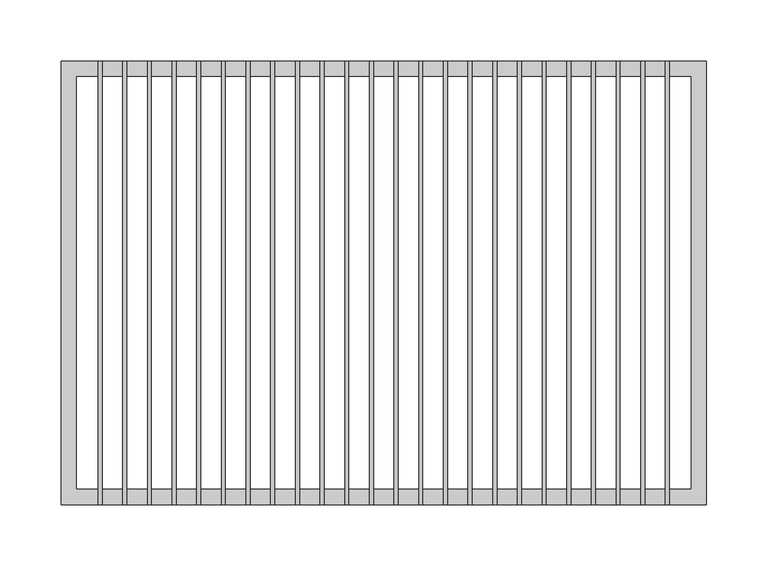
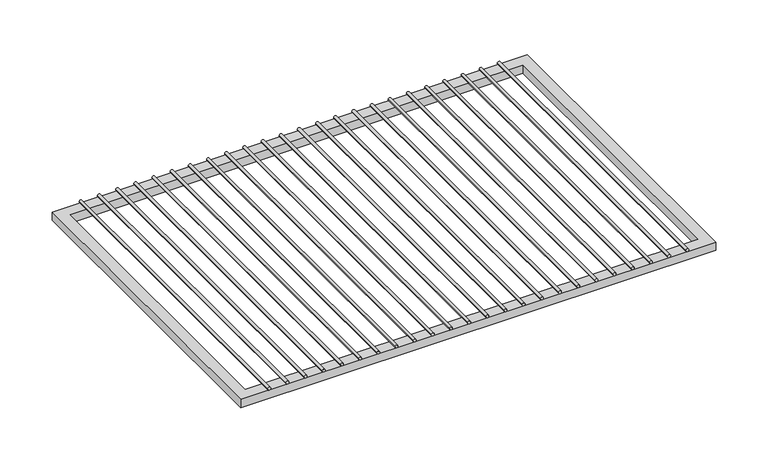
"""IFC4 building model written with IfcOpenShell, lengths in millimetres: furniture geometry, HermanMiller_CoStruc_CO252_CWireShelf : 14D x 20W."""

from ifc_helpers import new_model, si_unit, point, frame, frame_2d, origin, place, context, project, spatial, polyline, circle_curve, trimmed, segment, composite_curve, outline, extrude, source, transform, mapped, element, save


def furniture_db00a5af(model_context):
    return source(origin(), model_context, "Body", "SweptSolid", [
        extrude(outline(composite_curve([segment(trimmed(circle_curve(frame_2d((1626.39502, -211.6206522)), 1.5875), [point((1626.39502, -213.2081522))], [point((1626.39502, -210.0331522))], False, "CARTESIAN"), True, "CONTINUOUS"), segment(trimmed(circle_curve(frame_2d((1626.39502, -211.6206522)), 1.5875), [point((1626.39502, -210.0331522))], [point((1626.39502, -213.2081522))], False, "CARTESIAN"), True, "CONTINUOUS")], self_intersect=False)), frame((0.0, -180.975, 0.0), z_axis=(0.0, 1.0, 0.0), x_axis=(0.0, 0.0, 1.0)), (0.0, 0.0, 1.0), 361.95),
        extrude(outline(composite_curve([segment(trimmed(circle_curve(frame_2d((1626.39502, -191.4663043)), 1.5875), [point((1626.39502, -193.0538043))], [point((1626.39502, -189.8788043))], False, "CARTESIAN"), True, "CONTINUOUS"), segment(trimmed(circle_curve(frame_2d((1626.39502, -191.4663043)), 1.5875), [point((1626.39502, -189.8788043))], [point((1626.39502, -193.0538043))], False, "CARTESIAN"), True, "CONTINUOUS")], self_intersect=False)), frame((0.0, -180.975, 0.0), z_axis=(0.0, 1.0, 0.0), x_axis=(0.0, 0.0, 1.0)), (0.0, 0.0, 1.0), 361.95),
        extrude(outline(composite_curve([segment(trimmed(circle_curve(frame_2d((1626.39502, -171.3119565)), 1.5875), [point((1626.39502, -172.8994565))], [point((1626.39502, -169.7244565))], False, "CARTESIAN"), True, "CONTINUOUS"), segment(trimmed(circle_curve(frame_2d((1626.39502, -171.3119565)), 1.5875), [point((1626.39502, -169.7244565))], [point((1626.39502, -172.8994565))], False, "CARTESIAN"), True, "CONTINUOUS")], self_intersect=False)), frame((0.0, -180.975, 0.0), z_axis=(0.0, 1.0, 0.0), x_axis=(0.0, 0.0, 1.0)), (0.0, 0.0, 1.0), 361.95),
        extrude(outline(composite_curve([segment(trimmed(circle_curve(frame_2d((1626.39502, -151.1576087)), 1.5875), [point((1626.39502, -152.7451087))], [point((1626.39502, -149.5701087))], False, "CARTESIAN"), True, "CONTINUOUS"), segment(trimmed(circle_curve(frame_2d((1626.39502, -151.1576087)), 1.5875), [point((1626.39502, -149.5701087))], [point((1626.39502, -152.7451087))], False, "CARTESIAN"), True, "CONTINUOUS")], self_intersect=False)), frame((0.0, -180.975, 0.0), z_axis=(0.0, 1.0, 0.0), x_axis=(0.0, 0.0, 1.0)), (0.0, 0.0, 1.0), 361.95),
        extrude(outline(composite_curve([segment(trimmed(circle_curve(frame_2d((1626.39502, -131.0032609)), 1.5875), [point((1626.39502, -132.5907609))], [point((1626.39502, -129.4157609))], False, "CARTESIAN"), True, "CONTINUOUS"), segment(trimmed(circle_curve(frame_2d((1626.39502, -131.0032609)), 1.5875), [point((1626.39502, -129.4157609))], [point((1626.39502, -132.5907609))], False, "CARTESIAN"), True, "CONTINUOUS")], self_intersect=False)), frame((0.0, -180.975, 0.0), z_axis=(0.0, 1.0, 0.0), x_axis=(0.0, 0.0, 1.0)), (0.0, 0.0, 1.0), 361.95),
        extrude(outline(composite_curve([segment(trimmed(circle_curve(frame_2d((1626.39502, -110.848913)), 1.5875), [point((1626.39502, -112.436413))], [point((1626.39502, -109.261413))], False, "CARTESIAN"), True, "CONTINUOUS"), segment(trimmed(circle_curve(frame_2d((1626.39502, -110.848913)), 1.5875), [point((1626.39502, -109.261413))], [point((1626.39502, -112.436413))], False, "CARTESIAN"), True, "CONTINUOUS")], self_intersect=False)), frame((0.0, -180.975, 0.0), z_axis=(0.0, 1.0, 0.0), x_axis=(0.0, 0.0, 1.0)), (0.0, 0.0, 1.0), 361.95),
        extrude(outline(composite_curve([segment(trimmed(circle_curve(frame_2d((1626.39502, -90.6945652)), 1.5875), [point((1626.39502, -92.2820652))], [point((1626.39502, -89.1070652))], False, "CARTESIAN"), True, "CONTINUOUS"), segment(trimmed(circle_curve(frame_2d((1626.39502, -90.6945652)), 1.5875), [point((1626.39502, -89.1070652))], [point((1626.39502, -92.2820652))], False, "CARTESIAN"), True, "CONTINUOUS")], self_intersect=False)), frame((0.0, -180.975, 0.0), z_axis=(0.0, 1.0, 0.0), x_axis=(0.0, 0.0, 1.0)), (0.0, 0.0, 1.0), 361.95),
        extrude(outline(composite_curve([segment(trimmed(circle_curve(frame_2d((1626.39502, -70.5402174)), 1.5875), [point((1626.39502, -72.1277174))], [point((1626.39502, -68.9527174))], False, "CARTESIAN"), True, "CONTINUOUS"), segment(trimmed(circle_curve(frame_2d((1626.39502, -70.5402174)), 1.5875), [point((1626.39502, -68.9527174))], [point((1626.39502, -72.1277174))], False, "CARTESIAN"), True, "CONTINUOUS")], self_intersect=False)), frame((0.0, -180.975, 0.0), z_axis=(0.0, 1.0, 0.0), x_axis=(0.0, 0.0, 1.0)), (0.0, 0.0, 1.0), 361.95),
        extrude(outline(composite_curve([segment(trimmed(circle_curve(frame_2d((1626.39502, -50.3858696)), 1.5875), [point((1626.39502, -51.9733696))], [point((1626.39502, -48.7983696))], False, "CARTESIAN"), True, "CONTINUOUS"), segment(trimmed(circle_curve(frame_2d((1626.39502, -50.3858696)), 1.5875), [point((1626.39502, -48.7983696))], [point((1626.39502, -51.9733696))], False, "CARTESIAN"), True, "CONTINUOUS")], self_intersect=False)), frame((0.0, -180.975, 0.0), z_axis=(0.0, 1.0, 0.0), x_axis=(0.0, 0.0, 1.0)), (0.0, 0.0, 1.0), 361.95),
        extrude(outline(composite_curve([segment(trimmed(circle_curve(frame_2d((1626.39502, -30.2315217)), 1.5875), [point((1626.39502, -31.8190217))], [point((1626.39502, -28.6440217))], False, "CARTESIAN"), True, "CONTINUOUS"), segment(trimmed(circle_curve(frame_2d((1626.39502, -30.2315217)), 1.5875), [point((1626.39502, -28.6440217))], [point((1626.39502, -31.8190217))], False, "CARTESIAN"), True, "CONTINUOUS")], self_intersect=False)), frame((0.0, -180.975, 0.0), z_axis=(0.0, 1.0, 0.0), x_axis=(0.0, 0.0, 1.0)), (0.0, 0.0, 1.0), 361.95),
        extrude(outline(composite_curve([segment(trimmed(circle_curve(frame_2d((1626.39502, -10.0771739)), 1.5875), [point((1626.39502, -11.6646739))], [point((1626.39502, -8.4896739))], False, "CARTESIAN"), True, "CONTINUOUS"), segment(trimmed(circle_curve(frame_2d((1626.39502, -10.0771739)), 1.5875), [point((1626.39502, -8.4896739))], [point((1626.39502, -11.6646739))], False, "CARTESIAN"), True, "CONTINUOUS")], self_intersect=False)), frame((0.0, -180.975, 0.0), z_axis=(0.0, 1.0, 0.0), x_axis=(0.0, 0.0, 1.0)), (0.0, 0.0, 1.0), 361.95),
        extrude(outline(composite_curve([segment(trimmed(circle_curve(frame_2d((1626.39502, 10.0771739)), 1.5875), [point((1626.39502, 8.4896739))], [point((1626.39502, 11.6646739))], False, "CARTESIAN"), True, "CONTINUOUS"), segment(trimmed(circle_curve(frame_2d((1626.39502, 10.0771739)), 1.5875), [point((1626.39502, 11.6646739))], [point((1626.39502, 8.4896739))], False, "CARTESIAN"), True, "CONTINUOUS")], self_intersect=False)), frame((0.0, -180.975, 0.0), z_axis=(0.0, 1.0, 0.0), x_axis=(0.0, 0.0, 1.0)), (0.0, 0.0, 1.0), 361.95),
        extrude(outline(composite_curve([segment(trimmed(circle_curve(frame_2d((1626.39502, 30.2315217)), 1.5875), [point((1626.39502, 28.6440217))], [point((1626.39502, 31.8190217))], False, "CARTESIAN"), True, "CONTINUOUS"), segment(trimmed(circle_curve(frame_2d((1626.39502, 30.2315217)), 1.5875), [point((1626.39502, 31.8190217))], [point((1626.39502, 28.6440217))], False, "CARTESIAN"), True, "CONTINUOUS")], self_intersect=False)), frame((0.0, -180.975, 0.0), z_axis=(0.0, 1.0, 0.0), x_axis=(0.0, 0.0, 1.0)), (0.0, 0.0, 1.0), 361.95),
        extrude(outline(composite_curve([segment(trimmed(circle_curve(frame_2d((1626.39502, 50.3858696)), 1.5875), [point((1626.39502, 48.7983696))], [point((1626.39502, 51.9733696))], False, "CARTESIAN"), True, "CONTINUOUS"), segment(trimmed(circle_curve(frame_2d((1626.39502, 50.3858696)), 1.5875), [point((1626.39502, 51.9733696))], [point((1626.39502, 48.7983696))], False, "CARTESIAN"), True, "CONTINUOUS")], self_intersect=False)), frame((0.0, -180.975, 0.0), z_axis=(0.0, 1.0, 0.0), x_axis=(0.0, 0.0, 1.0)), (0.0, 0.0, 1.0), 361.95),
        extrude(outline(composite_curve([segment(trimmed(circle_curve(frame_2d((1626.39502, 70.5402174)), 1.5875), [point((1626.39502, 68.9527174))], [point((1626.39502, 72.1277174))], False, "CARTESIAN"), True, "CONTINUOUS"), segment(trimmed(circle_curve(frame_2d((1626.39502, 70.5402174)), 1.5875), [point((1626.39502, 72.1277174))], [point((1626.39502, 68.9527174))], False, "CARTESIAN"), True, "CONTINUOUS")], self_intersect=False)), frame((0.0, -180.975, 0.0), z_axis=(0.0, 1.0, 0.0), x_axis=(0.0, 0.0, 1.0)), (0.0, 0.0, 1.0), 361.95),
        extrude(outline(composite_curve([segment(trimmed(circle_curve(frame_2d((1626.39502, 90.6945652)), 1.5875), [point((1626.39502, 89.1070652))], [point((1626.39502, 92.2820652))], False, "CARTESIAN"), True, "CONTINUOUS"), segment(trimmed(circle_curve(frame_2d((1626.39502, 90.6945652)), 1.5875), [point((1626.39502, 92.2820652))], [point((1626.39502, 89.1070652))], False, "CARTESIAN"), True, "CONTINUOUS")], self_intersect=False)), frame((0.0, -180.975, 0.0), z_axis=(0.0, 1.0, 0.0), x_axis=(0.0, 0.0, 1.0)), (0.0, 0.0, 1.0), 361.95),
        extrude(outline(composite_curve([segment(trimmed(circle_curve(frame_2d((1626.39502, 110.848913)), 1.5875), [point((1626.39502, 109.261413))], [point((1626.39502, 112.436413))], False, "CARTESIAN"), True, "CONTINUOUS"), segment(trimmed(circle_curve(frame_2d((1626.39502, 110.848913)), 1.5875), [point((1626.39502, 112.436413))], [point((1626.39502, 109.261413))], False, "CARTESIAN"), True, "CONTINUOUS")], self_intersect=False)), frame((0.0, -180.975, 0.0), z_axis=(0.0, 1.0, 0.0), x_axis=(0.0, 0.0, 1.0)), (0.0, 0.0, 1.0), 361.95),
        extrude(outline(composite_curve([segment(trimmed(circle_curve(frame_2d((1626.39502, 131.0032609)), 1.5875), [point((1626.39502, 129.4157609))], [point((1626.39502, 132.5907609))], False, "CARTESIAN"), True, "CONTINUOUS"), segment(trimmed(circle_curve(frame_2d((1626.39502, 131.0032609)), 1.5875), [point((1626.39502, 132.5907609))], [point((1626.39502, 129.4157609))], False, "CARTESIAN"), True, "CONTINUOUS")], self_intersect=False)), frame((0.0, -180.975, 0.0), z_axis=(0.0, 1.0, 0.0), x_axis=(0.0, 0.0, 1.0)), (0.0, 0.0, 1.0), 361.95),
        extrude(outline(composite_curve([segment(trimmed(circle_curve(frame_2d((1626.39502, 151.1576087)), 1.5875), [point((1626.39502, 149.5701087))], [point((1626.39502, 152.7451087))], False, "CARTESIAN"), True, "CONTINUOUS"), segment(trimmed(circle_curve(frame_2d((1626.39502, 151.1576087)), 1.5875), [point((1626.39502, 152.7451087))], [point((1626.39502, 149.5701087))], False, "CARTESIAN"), True, "CONTINUOUS")], self_intersect=False)), frame((0.0, -180.975, 0.0), z_axis=(0.0, 1.0, 0.0), x_axis=(0.0, 0.0, 1.0)), (0.0, 0.0, 1.0), 361.95),
        extrude(outline(composite_curve([segment(trimmed(circle_curve(frame_2d((1626.39502, 171.3119565)), 1.5875), [point((1626.39502, 169.7244565))], [point((1626.39502, 172.8994565))], False, "CARTESIAN"), True, "CONTINUOUS"), segment(trimmed(circle_curve(frame_2d((1626.39502, 171.3119565)), 1.5875), [point((1626.39502, 172.8994565))], [point((1626.39502, 169.7244565))], False, "CARTESIAN"), True, "CONTINUOUS")], self_intersect=False)), frame((0.0, -180.975, 0.0), z_axis=(0.0, 1.0, 0.0), x_axis=(0.0, 0.0, 1.0)), (0.0, 0.0, 1.0), 361.95),
        extrude(outline(composite_curve([segment(trimmed(circle_curve(frame_2d((1626.39502, 191.4663043)), 1.5875), [point((1626.39502, 189.8788043))], [point((1626.39502, 193.0538043))], False, "CARTESIAN"), True, "CONTINUOUS"), segment(trimmed(circle_curve(frame_2d((1626.39502, 191.4663043)), 1.5875), [point((1626.39502, 193.0538043))], [point((1626.39502, 189.8788043))], False, "CARTESIAN"), True, "CONTINUOUS")], self_intersect=False)), frame((0.0, -180.975, 0.0), z_axis=(0.0, 1.0, 0.0), x_axis=(0.0, 0.0, 1.0)), (0.0, 0.0, 1.0), 361.95),
        extrude(outline(composite_curve([segment(trimmed(circle_curve(frame_2d((1626.39502, 211.6206522)), 1.5875), [point((1626.39502, 210.0331522))], [point((1626.39502, 213.2081522))], False, "CARTESIAN"), True, "CONTINUOUS"), segment(trimmed(circle_curve(frame_2d((1626.39502, 211.6206522)), 1.5875), [point((1626.39502, 213.2081522))], [point((1626.39502, 210.0331522))], False, "CARTESIAN"), True, "CONTINUOUS")], self_intersect=False)), frame((0.0, -180.975, 0.0), z_axis=(0.0, 1.0, 0.0), x_axis=(0.0, 0.0, 1.0)), (0.0, 0.0, 1.0), 361.95),
        extrude(outline(composite_curve([segment(trimmed(circle_curve(frame_2d((1626.39502, -231.775)), 1.5875), [point((1626.39502, -233.3625))], [point((1626.39502, -230.1875))], False, "CARTESIAN"), True, "CONTINUOUS"), segment(trimmed(circle_curve(frame_2d((1626.39502, -231.775)), 1.5875), [point((1626.39502, -230.1875))], [point((1626.39502, -233.3625))], False, "CARTESIAN"), True, "CONTINUOUS")], self_intersect=False)), frame((0.0, -180.975, 0.0), z_axis=(0.0, 1.0, 0.0), x_axis=(0.0, 0.0, 1.0)), (0.0, 0.0, 1.0), 361.95),
        extrude(outline(composite_curve([segment(trimmed(circle_curve(frame_2d((1626.39502, 231.775)), 1.5875), [point((1626.39502, 230.1875))], [point((1626.39502, 233.3625))], False, "CARTESIAN"), True, "CONTINUOUS"), segment(trimmed(circle_curve(frame_2d((1626.39502, 231.775)), 1.5875), [point((1626.39502, 233.3625))], [point((1626.39502, 230.1875))], False, "CARTESIAN"), True, "CONTINUOUS")], self_intersect=False)), frame((0.0, -180.975, 0.0), z_axis=(0.0, 1.0, 0.0), x_axis=(0.0, 0.0, 1.0)), (0.0, 0.0, 1.0), 361.95),
        extrude(outline(polyline([(-263.525, -180.975), (-263.525, 180.975), (263.525, 180.975), (263.525, -180.975), (-263.525, -180.975)]), holes=[polyline([(-250.825, -168.275), (250.825, -168.275), (250.825, 168.275), (-250.825, 168.275), (-250.825, -168.275)])]), frame((0.0, 0.0, 1615.28252), z_axis=(0.0, 0.0, 1.0), x_axis=(1.0, 0.0, 0.0)), (0.0, 0.0, 1.0), 9.525),
    ])


if __name__ == "__main__":
    model = new_model("IFC4")
    model_context = context("Model", 3, world=origin())
    ifc_project = project(units=[si_unit("LENGTHUNIT", "METRE", prefix="MILLI")], contexts=[model_context])
    site = spatial("IfcSite", under=ifc_project)
    building = spatial("IfcBuilding", under=site)
    placement = place(None, origin())
    furniture_shape = furniture_db00a5af(model_context)
    element("IfcFurniture", 1, ObjectType="HermanMiller_CoStruc_CO252_CWireShelf : 14D x 20W", at=placement, inside=building, context=model_context, shape_type="MappedRepresentation", body=[
        mapped(furniture_shape, transform((0.0, 0.0, 0.0), x_axis=(1.0, 0.0, 0.0), y_axis=(0.0, 1.0, 0.0), z_axis=(0.0, 0.0, 1.0))),
    ])
    save(model, "model.ifc")
